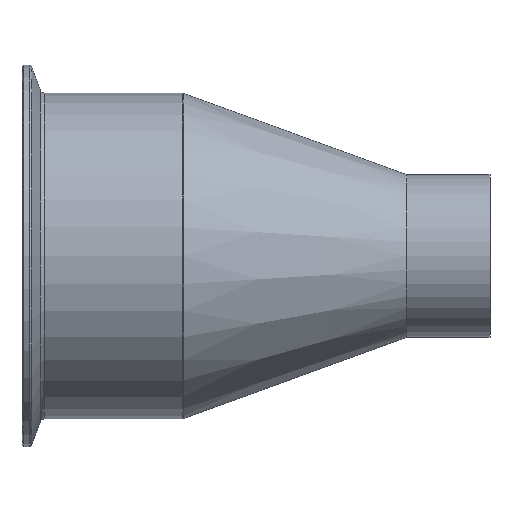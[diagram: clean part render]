
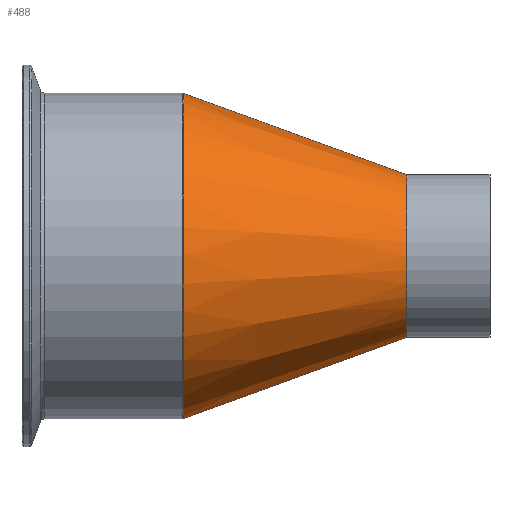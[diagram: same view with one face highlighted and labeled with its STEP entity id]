
A CAD part, top view. The second image highlights one B-rep face of the part: STEP entity #488.
In plain terms, the highlighted conical face has half-angle 20 degrees and reference radius 25.4 mm.
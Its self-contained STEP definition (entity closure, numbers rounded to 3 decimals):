
#30 = ORIENTED_EDGE ( 'NONE', *, *, #848, .F. ) ;
#34 = EDGE_LOOP ( 'NONE', ( #560, #137, #1004, #30 ) ) ;
#38 = CARTESIAN_POINT ( 'NONE',  ( -26., 25.4, 0. ) ) ;
#72 = DIRECTION ( 'NONE',  ( -0.94, -0.342, 0. ) ) ;
#87 = DIRECTION ( 'NONE',  ( -0.94, 0.342, 0. ) ) ;
#117 = VERTEX_POINT ( 'NONE', #38 ) ;
#137 = ORIENTED_EDGE ( 'NONE', *, *, #851, .T. ) ;
#147 = CONICAL_SURFACE ( 'NONE', #554, 25.4, 0.349 ) ;
#348 = DIRECTION ( 'NONE',  ( 1., 0., 0. ) ) ;
#358 = CIRCLE ( 'NONE', #1005, 25.4 ) ;
#368 = DIRECTION ( 'NONE',  ( 0., 1., 0. ) ) ;
#383 = VERTEX_POINT ( 'NONE', #616 ) ;
#403 = DIRECTION ( 'NONE',  ( 0., -1., 0. ) ) ;
#413 = CARTESIAN_POINT ( 'NONE',  ( -26., 0., 0. ) ) ;
#432 = CIRCLE ( 'NONE', #676, 50.752 ) ;
#451 = CARTESIAN_POINT ( 'NONE',  ( -95.653, -50.752, 0. ) ) ;
#457 = DIRECTION ( 'NONE',  ( -1., 0., 0. ) ) ;
#488 = ADVANCED_FACE ( 'NONE', ( #874 ), #147, .T. ) ;
#499 = EDGE_CURVE ( 'NONE', #383, #527, #432, .T. ) ;
#526 = CARTESIAN_POINT ( 'NONE',  ( -26., -25.4, 0. ) ) ;
#527 = VERTEX_POINT ( 'NONE', #451 ) ;
#534 = VECTOR ( 'NONE', #87, 1000. ) ;
#554 = AXIS2_PLACEMENT_3D ( 'NONE', #608, #457, #403 ) ;
#560 = ORIENTED_EDGE ( 'NONE', *, *, #810, .F. ) ;
#608 = CARTESIAN_POINT ( 'NONE',  ( -26., 0., 0. ) ) ;
#616 = CARTESIAN_POINT ( 'NONE',  ( -95.653, 50.752, 0. ) ) ;
#617 = DIRECTION ( 'NONE',  ( 1., 0., 0. ) ) ;
#676 = AXIS2_PLACEMENT_3D ( 'NONE', #775, #617, #703 ) ;
#703 = DIRECTION ( 'NONE',  ( 0., 1., 0. ) ) ;
#704 = VECTOR ( 'NONE', #72, 1000. ) ;
#717 = LINE ( 'NONE', #872, #534 ) ;
#775 = CARTESIAN_POINT ( 'NONE',  ( -95.653, 0., 0. ) ) ;
#808 = CARTESIAN_POINT ( 'NONE',  ( -26., -25.4, 0. ) ) ;
#810 = EDGE_CURVE ( 'NONE', #117, #1103, #358, .T. ) ;
#848 = EDGE_CURVE ( 'NONE', #1103, #527, #880, .T. ) ;
#851 = EDGE_CURVE ( 'NONE', #117, #383, #717, .T. ) ;
#872 = CARTESIAN_POINT ( 'NONE',  ( -26., 25.4, 0. ) ) ;
#874 = FACE_OUTER_BOUND ( 'NONE', #34, .T. ) ;
#880 = LINE ( 'NONE', #808, #704 ) ;
#1004 = ORIENTED_EDGE ( 'NONE', *, *, #499, .T. ) ;
#1005 = AXIS2_PLACEMENT_3D ( 'NONE', #413, #348, #368 ) ;
#1103 = VERTEX_POINT ( 'NONE', #526 ) ;
